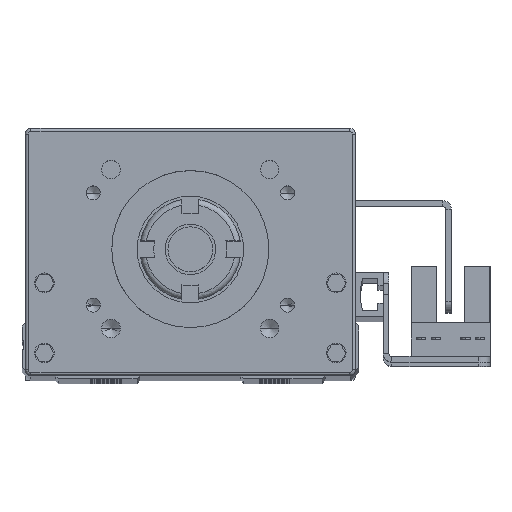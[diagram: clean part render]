
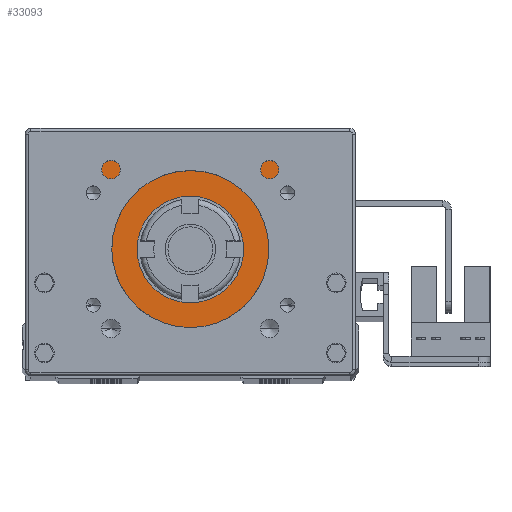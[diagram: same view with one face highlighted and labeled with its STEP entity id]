
A CAD part, top view. The second image highlights one B-rep face of the part: STEP entity #33093.
In plain terms, the highlighted planar face has unit normal (0, 0, 1).
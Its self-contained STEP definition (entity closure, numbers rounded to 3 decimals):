
#428 = DIRECTION ( 'NONE',  ( -1., 0., 0. ) ) ;
#487 = DIRECTION ( 'NONE',  ( -1., 0., 0. ) ) ;
#559 = VERTEX_POINT ( 'NONE', #13645 ) ;
#642 = DIRECTION ( 'NONE',  ( 0., 0., -1. ) ) ;
#1309 = DIRECTION ( 'NONE',  ( -1., 0., 0. ) ) ;
#2068 = VECTOR ( 'NONE', #33804, 1000. ) ;
#2634 = LINE ( 'NONE', #39907, #36527 ) ;
#2897 = AXIS2_PLACEMENT_3D ( 'NONE', #56414, #9346, #32850 ) ;
#3365 = AXIS2_PLACEMENT_3D ( 'NONE', #30858, #35022, #21167 ) ;
#3548 = VERTEX_POINT ( 'NONE', #21395 ) ;
#4610 = CIRCLE ( 'NONE', #2897, 14. ) ;
#4934 = ORIENTED_EDGE ( 'NONE', *, *, #34063, .F. ) ;
#5137 = VECTOR ( 'NONE', #35864, 1000. ) ;
#5396 = CARTESIAN_POINT ( 'NONE',  ( 12.335, 45.398, 268.5 ) ) ;
#5825 = DIRECTION ( 'NONE',  ( 1., 0., 0. ) ) ;
#5974 = CARTESIAN_POINT ( 'NONE',  ( 52.335, 12.398, 268.5 ) ) ;
#6167 = EDGE_CURVE ( 'NONE', #13753, #9652, #13607, .T. ) ;
#6666 = DIRECTION ( 'NONE',  ( 0., 1., 0. ) ) ;
#8222 = LINE ( 'NONE', #5396, #17806 ) ;
#8856 = AXIS2_PLACEMENT_3D ( 'NONE', #10766, #34451, #5825 ) ;
#8965 = EDGE_CURVE ( 'NONE', #12712, #559, #40750, .T. ) ;
#9146 = CARTESIAN_POINT ( 'NONE',  ( 41.835, 23.898, 268.5 ) ) ;
#9173 = VERTEX_POINT ( 'NONE', #33023 ) ;
#9260 = VECTOR ( 'NONE', #6666, 1000. ) ;
#9346 = DIRECTION ( 'NONE',  ( 0., 0., 1. ) ) ;
#9652 = VERTEX_POINT ( 'NONE', #23042 ) ;
#10257 = EDGE_CURVE ( 'NONE', #16245, #9173, #18284, .T. ) ;
#10766 = CARTESIAN_POINT ( 'NONE',  ( 32.335, 23.898, 268.5 ) ) ;
#11994 = VECTOR ( 'NONE', #36802, 1000. ) ;
#12712 = VERTEX_POINT ( 'NONE', #39351 ) ;
#13607 = CIRCLE ( 'NONE', #3365, 1. ) ;
#13645 = CARTESIAN_POINT ( 'NONE',  ( 51.735, 35.398, 268.5 ) ) ;
#13710 = EDGE_CURVE ( 'NONE', #9173, #13753, #8222, .T. ) ;
#13753 = VERTEX_POINT ( 'NONE', #19552 ) ;
#13881 = EDGE_CURVE ( 'NONE', #53246, #25071, #30331, .T. ) ;
#14405 = PLANE ( 'NONE',  #30993 ) ;
#16231 = EDGE_LOOP ( 'NONE', ( #40051, #48659, #4934, #55816, #27868, #43168, #20624, #36607, #17324, #31069, #50859, #17139 ) ) ;
#16240 = EDGE_CURVE ( 'NONE', #3548, #53246, #40890, .T. ) ;
#16245 = VERTEX_POINT ( 'NONE', #21128 ) ;
#16880 = FACE_OUTER_BOUND ( 'NONE', #16231, .T. ) ;
#17139 = ORIENTED_EDGE ( 'NONE', *, *, #16240, .F. ) ;
#17324 = ORIENTED_EDGE ( 'NONE', *, *, #6167, .T. ) ;
#17408 = VERTEX_POINT ( 'NONE', #22405 ) ;
#17806 = VECTOR ( 'NONE', #1309, 1000. ) ;
#17895 = AXIS2_PLACEMENT_3D ( 'NONE', #23797, #37888, #19466 ) ;
#18284 = CIRCLE ( 'NONE', #17895, 1. ) ;
#18841 = CIRCLE ( 'NONE', #22506, 9.5 ) ;
#19466 = DIRECTION ( 'NONE',  ( -1., 0., 0. ) ) ;
#19552 = CARTESIAN_POINT ( 'NONE',  ( 11.335, 45.398, 268.5 ) ) ;
#20590 = CARTESIAN_POINT ( 'NONE',  ( 12.935, 35.398, 268.5 ) ) ;
#20624 = ORIENTED_EDGE ( 'NONE', *, *, #10257, .T. ) ;
#21128 = CARTESIAN_POINT ( 'NONE',  ( 52.335, 44.398, 268.5 ) ) ;
#21167 = DIRECTION ( 'NONE',  ( -1., 0., 0. ) ) ;
#21395 = CARTESIAN_POINT ( 'NONE',  ( 12.935, 12.398, 268.5 ) ) ;
#21666 = DIRECTION ( 'NONE',  ( -1., 0., 0. ) ) ;
#21745 = CARTESIAN_POINT ( 'NONE',  ( 22.835, 23.898, 268.5 ) ) ;
#21792 = LINE ( 'NONE', #49196, #9260 ) ;
#21931 = EDGE_CURVE ( 'NONE', #49619, #45635, #45984, .T. ) ;
#22405 = CARTESIAN_POINT ( 'NONE',  ( 40.32, 12.398, 268.5 ) ) ;
#22479 = EDGE_CURVE ( 'NONE', #39066, #16245, #56058, .T. ) ;
#22506 = AXIS2_PLACEMENT_3D ( 'NONE', #44799, #40244, #35693 ) ;
#23042 = CARTESIAN_POINT ( 'NONE',  ( 12.335, 44.398, 268.5 ) ) ;
#23797 = CARTESIAN_POINT ( 'NONE',  ( 53.335, 44.398, 268.5 ) ) ;
#24091 = CARTESIAN_POINT ( 'NONE',  ( 51.735, 35.398, 268.5 ) ) ;
#25071 = VERTEX_POINT ( 'NONE', #41487 ) ;
#27583 = LINE ( 'NONE', #24091, #34243 ) ;
#27868 = ORIENTED_EDGE ( 'NONE', *, *, #40722, .F. ) ;
#28427 = VERTEX_POINT ( 'NONE', #39949 ) ;
#28553 = CARTESIAN_POINT ( 'NONE',  ( 12.335, 12.398, 268.5 ) ) ;
#30331 = LINE ( 'NONE', #20590, #43694 ) ;
#30858 = CARTESIAN_POINT ( 'NONE',  ( 11.335, 44.398, 268.5 ) ) ;
#30993 = AXIS2_PLACEMENT_3D ( 'NONE', #28553, #642, #428 ) ;
#31069 = ORIENTED_EDGE ( 'NONE', *, *, #55364, .F. ) ;
#32018 = CARTESIAN_POINT ( 'NONE',  ( 51.735, 0., 268.5 ) ) ;
#32850 = DIRECTION ( 'NONE',  ( -1., 0., 0. ) ) ;
#33023 = CARTESIAN_POINT ( 'NONE',  ( 53.335, 45.398, 268.5 ) ) ;
#33093 = ADVANCED_FACE ( 'NONE', ( #56748, #16880 ), #14405, .F. ) ;
#33804 = DIRECTION ( 'NONE',  ( -1., 0., 0. ) ) ;
#34063 = EDGE_CURVE ( 'NONE', #12712, #17408, #2634, .T. ) ;
#34243 = VECTOR ( 'NONE', #487, 1000. ) ;
#34451 = DIRECTION ( 'NONE',  ( 0., 0., 1. ) ) ;
#35022 = DIRECTION ( 'NONE',  ( 0., 0., -1. ) ) ;
#35407 = DIRECTION ( 'NONE',  ( 0., 1., 0. ) ) ;
#35693 = DIRECTION ( 'NONE',  ( 1., 0., 0. ) ) ;
#35864 = DIRECTION ( 'NONE',  ( 0., 1., 0. ) ) ;
#36527 = VECTOR ( 'NONE', #21666, 1000. ) ;
#36607 = ORIENTED_EDGE ( 'NONE', *, *, #13710, .T. ) ;
#36802 = DIRECTION ( 'NONE',  ( 0., 1., 0. ) ) ;
#37888 = DIRECTION ( 'NONE',  ( 0., 0., -1. ) ) ;
#39066 = VERTEX_POINT ( 'NONE', #47167 ) ;
#39351 = CARTESIAN_POINT ( 'NONE',  ( 51.735, 12.398, 268.5 ) ) ;
#39647 = EDGE_CURVE ( 'NONE', #28427, #3548, #42614, .T. ) ;
#39907 = CARTESIAN_POINT ( 'NONE',  ( 12.335, 12.398, 268.5 ) ) ;
#39949 = CARTESIAN_POINT ( 'NONE',  ( 24.351, 12.398, 268.5 ) ) ;
#40051 = ORIENTED_EDGE ( 'NONE', *, *, #39647, .F. ) ;
#40244 = DIRECTION ( 'NONE',  ( 0., 0., 1. ) ) ;
#40722 = EDGE_CURVE ( 'NONE', #39066, #559, #27583, .T. ) ;
#40750 = LINE ( 'NONE', #32018, #11994 ) ;
#40890 = LINE ( 'NONE', #58541, #60836 ) ;
#41487 = CARTESIAN_POINT ( 'NONE',  ( 12.335, 35.398, 268.5 ) ) ;
#42614 = LINE ( 'NONE', #57353, #2068 ) ;
#43168 = ORIENTED_EDGE ( 'NONE', *, *, #22479, .T. ) ;
#43694 = VECTOR ( 'NONE', #58605, 1000. ) ;
#44617 = EDGE_CURVE ( 'NONE', #28427, #17408, #4610, .T. ) ;
#44799 = CARTESIAN_POINT ( 'NONE',  ( 32.335, 23.898, 268.5 ) ) ;
#45635 = VERTEX_POINT ( 'NONE', #21745 ) ;
#45984 = CIRCLE ( 'NONE', #8856, 9.5 ) ;
#47167 = CARTESIAN_POINT ( 'NONE',  ( 52.335, 35.398, 268.5 ) ) ;
#48156 = EDGE_LOOP ( 'NONE', ( #56050, #60287 ) ) ;
#48659 = ORIENTED_EDGE ( 'NONE', *, *, #44617, .T. ) ;
#48760 = EDGE_CURVE ( 'NONE', #45635, #49619, #18841, .T. ) ;
#49196 = CARTESIAN_POINT ( 'NONE',  ( 12.335, 12.398, 268.5 ) ) ;
#49619 = VERTEX_POINT ( 'NONE', #9146 ) ;
#50859 = ORIENTED_EDGE ( 'NONE', *, *, #13881, .F. ) ;
#53246 = VERTEX_POINT ( 'NONE', #60849 ) ;
#55364 = EDGE_CURVE ( 'NONE', #25071, #9652, #21792, .T. ) ;
#55816 = ORIENTED_EDGE ( 'NONE', *, *, #8965, .T. ) ;
#56050 = ORIENTED_EDGE ( 'NONE', *, *, #21931, .F. ) ;
#56058 = LINE ( 'NONE', #5974, #5137 ) ;
#56414 = CARTESIAN_POINT ( 'NONE',  ( 32.335, 23.898, 268.5 ) ) ;
#56748 = FACE_BOUND ( 'NONE', #48156, .T. ) ;
#57353 = CARTESIAN_POINT ( 'NONE',  ( 12.335, 12.398, 268.5 ) ) ;
#58541 = CARTESIAN_POINT ( 'NONE',  ( 12.935, 0., 268.5 ) ) ;
#58605 = DIRECTION ( 'NONE',  ( -1., 0., 0. ) ) ;
#60287 = ORIENTED_EDGE ( 'NONE', *, *, #48760, .F. ) ;
#60836 = VECTOR ( 'NONE', #35407, 1000. ) ;
#60849 = CARTESIAN_POINT ( 'NONE',  ( 12.935, 35.398, 268.5 ) ) ;
